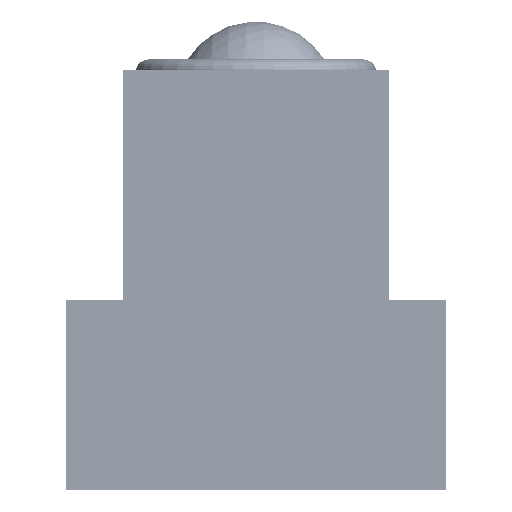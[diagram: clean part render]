
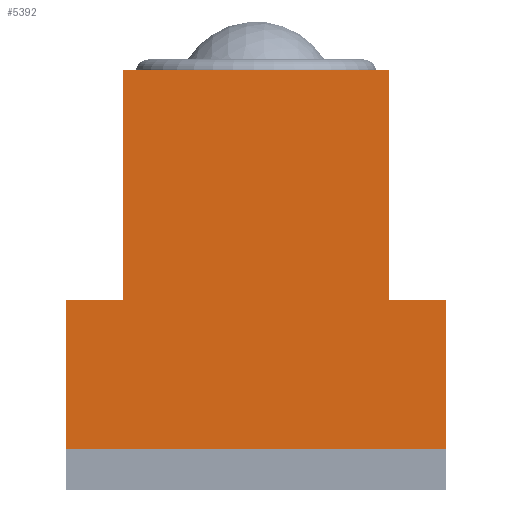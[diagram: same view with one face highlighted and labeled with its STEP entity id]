
A CAD part, left-side view. The second image highlights one B-rep face of the part: STEP entity #5392.
In plain terms, the highlighted planar face has unit normal (-1, 0, 0) as drawn and (0, 0, -1) by its records, which use the part's own axes.
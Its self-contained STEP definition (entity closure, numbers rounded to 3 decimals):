
#622=PLANE('',#6017);
#819=LINE('',#9331,#1067);
#823=LINE('',#9338,#1071);
#824=LINE('',#9342,#1072);
#828=LINE('',#9349,#1076);
#832=LINE('',#9356,#1080);
#833=LINE('',#9359,#1081);
#836=LINE('',#9365,#1084);
#839=LINE('',#9370,#1087);
#1067=VECTOR('',#7510,18.2);
#1071=VECTOR('',#7516,21.);
#1072=VECTOR('',#7519,11.8);
#1076=VECTOR('',#7525,4.5);
#1080=VECTOR('',#7531,18.2);
#1081=VECTOR('',#7534,4.5);
#1084=VECTOR('',#7539,11.8);
#1087=VECTOR('',#7544,30.);
#1816=FACE_OUTER_BOUND('',#2395,.T.);
#2395=EDGE_LOOP('',(#4874,#4875,#4876,#4877,#4878,#4879,#4880,#4881));
#3148=VERTEX_POINT('',#9328);
#3149=VERTEX_POINT('',#9330);
#3151=VERTEX_POINT('',#9336);
#3152=VERTEX_POINT('',#9340);
#3153=VERTEX_POINT('',#9341);
#3157=VERTEX_POINT('',#9354);
#3158=VERTEX_POINT('',#9358);
#3160=VERTEX_POINT('',#9364);
#3724=EDGE_CURVE('',#3148,#3149,#819,.T.);
#3728=EDGE_CURVE('',#3151,#3148,#823,.T.);
#3729=EDGE_CURVE('',#3152,#3153,#824,.T.);
#3733=EDGE_CURVE('',#3149,#3152,#828,.T.);
#3737=EDGE_CURVE('',#3157,#3151,#832,.T.);
#3738=EDGE_CURVE('',#3158,#3157,#833,.T.);
#3741=EDGE_CURVE('',#3160,#3158,#836,.T.);
#3744=EDGE_CURVE('',#3153,#3160,#839,.T.);
#4874=ORIENTED_EDGE('',*,*,#3744,.F.);
#4875=ORIENTED_EDGE('',*,*,#3729,.F.);
#4876=ORIENTED_EDGE('',*,*,#3733,.F.);
#4877=ORIENTED_EDGE('',*,*,#3724,.F.);
#4878=ORIENTED_EDGE('',*,*,#3728,.F.);
#4879=ORIENTED_EDGE('',*,*,#3737,.F.);
#4880=ORIENTED_EDGE('',*,*,#3738,.F.);
#4881=ORIENTED_EDGE('',*,*,#3741,.F.);
#5392=ADVANCED_FACE('',(#1816),#622,.F.);
#6017=AXIS2_PLACEMENT_3D('',#9373,#7548,#7549);
#7510=DIRECTION('',(0.,-1.,0.));
#7516=DIRECTION('',(-1.,0.,0.));
#7519=DIRECTION('',(0.,-1.,0.));
#7525=DIRECTION('',(-1.,0.,0.));
#7531=DIRECTION('',(0.,1.,0.));
#7534=DIRECTION('',(-1.,0.,0.));
#7539=DIRECTION('',(0.,1.,0.));
#7544=DIRECTION('',(1.,0.,0.));
#7548=DIRECTION('center_axis',(0.,0.,1.));
#7549=DIRECTION('ref_axis',(1.,0.,0.));
#9328=CARTESIAN_POINT('',(-10.5,30.,0.));
#9330=CARTESIAN_POINT('',(-10.5,11.8,0.));
#9331=CARTESIAN_POINT('',(-10.5,30.,0.));
#9336=CARTESIAN_POINT('',(10.5,30.,0.));
#9338=CARTESIAN_POINT('',(10.5,30.,0.));
#9340=CARTESIAN_POINT('',(-15.,11.8,0.));
#9341=CARTESIAN_POINT('',(-15.,0.,0.));
#9342=CARTESIAN_POINT('',(-15.,11.8,0.));
#9349=CARTESIAN_POINT('',(-10.5,11.8,0.));
#9354=CARTESIAN_POINT('',(10.5,11.8,0.));
#9356=CARTESIAN_POINT('',(10.5,11.8,0.));
#9358=CARTESIAN_POINT('',(15.,11.8,0.));
#9359=CARTESIAN_POINT('',(15.,11.8,0.));
#9364=CARTESIAN_POINT('',(15.,0.,0.));
#9365=CARTESIAN_POINT('',(15.,0.,0.));
#9370=CARTESIAN_POINT('',(-15.,0.,0.));
#9373=CARTESIAN_POINT('Origin',(0.,13.635,0.));
